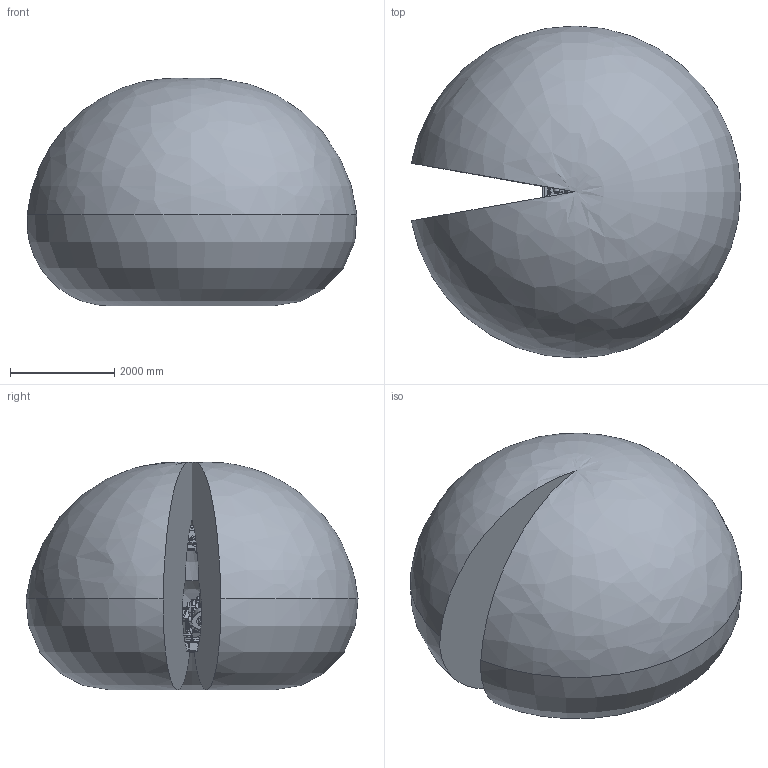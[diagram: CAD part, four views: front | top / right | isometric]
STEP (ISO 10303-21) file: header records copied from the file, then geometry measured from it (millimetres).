
FILE_DESCRIPTION(/* description */ (''),/* implementation_level */ '2;1');
FILE_NAME(/* name */ 'E:\组装完成的图纸\IRB 6700\IRB 6700-150-3.2\IRB 6700-150-3.2(带工作域).stp',/* time_stamp */ '2023-11-04T17:52:48+08:00',/* author */ ('Administrator'),/* organization */ (''),/* preprocessor_version */ 'ST-DEVELOPER v16.5',/* originating_system */ 'Autodesk Inventor 2017',/* authorisation */ '');
FILE_SCHEMA (('AUTOMOTIVE_DESIGN { 1 0 10303 214 3 1 1 }'));
Products named in the file (17): 部件15; IRB6700_320_Working_space; IRB6700-MH3_150-320_IRC5_rev00_LOGO1_CAD; IRB6700-MH3_150-320_IRC5_rev00_LOGO2_CAD; IRB6700-MH3_150-320_IRC5_rev00_LOGO3_CAD; IRB6700-MH3_150-320_IRC5_rev01_BASE_CAD; IRB6700-MH3_150-320_IRC5_rev01_LINK02m_CABLE; IRB6700-MH3_150-320_IRC5_rev02_LINK01m_CABLE; IRB6700-MH3_150-320_IRC5_rev02_LINK03m_CABLE; IRB6700-MH3_150-320_IRC5_rev02_LINK04_CAD; IRB6700-MH3_150-320_IRC5_rev02_LINK06_CAD; IRB6700-MH3_150-320_IRC5_rev03_LINK02_CAD; IRB6700-MH3_150-320_IRC5_rev03_ROD_CAD; IRB6700-MH3_150-320_IRC5_rev04_LINK05_CAD; IRB6700-MH3_150-320_IRC5_rev05_LINK03_CAD; IRB6700-MH3_150-320_IRC5_rev06_CYLINDER_CAD; IRB6700-MH3_150-320_IRC5_rev06_LINK01_CAD
Assembly tree (16 placements, depth 2):
  部件15
    IRB6700_320_Working_space
    IRB6700-MH3_150-320_IRC5_rev00_LOGO1_CAD
    IRB6700-MH3_150-320_IRC5_rev00_LOGO2_CAD
    IRB6700-MH3_150-320_IRC5_rev00_LOGO3_CAD
    IRB6700-MH3_150-320_IRC5_rev01_BASE_CAD
    IRB6700-MH3_150-320_IRC5_rev01_LINK02m_CABLE
    IRB6700-MH3_150-320_IRC5_rev02_LINK01m_CABLE
    IRB6700-MH3_150-320_IRC5_rev02_LINK03m_CABLE
    IRB6700-MH3_150-320_IRC5_rev02_LINK04_CAD
    IRB6700-MH3_150-320_IRC5_rev02_LINK06_CAD
    IRB6700-MH3_150-320_IRC5_rev03_LINK02_CAD
    IRB6700-MH3_150-320_IRC5_rev03_ROD_CAD
    IRB6700-MH3_150-320_IRC5_rev04_LINK05_CAD
    IRB6700-MH3_150-320_IRC5_rev05_LINK03_CAD
    IRB6700-MH3_150-320_IRC5_rev06_CYLINDER_CAD
    IRB6700-MH3_150-320_IRC5_rev06_LINK01_CAD
Bounding box: 6334.8 x 6382.12 x 4375.12 mm (x, y, z)
Volume: 91335654946.2 mm3; surface area: 149197114.1 mm2
Topology: 18 solids, 20 shells, 5337 faces, 14137 edges, 9155 vertices
Faces by surface type: plane 3248, cylinder 1090, cone 535, bspline 442, torus 17, sphere 5
Full cylindrical faces by diameter (mm): 5 x23, 6 x14, 6.5 x8, 6.6 x9, 6.8 x12, 7 x16, 7.1 x2, 7.5 x8, 8 x2, 8.3 x4, 8.5 x4, 8.6 x4, 8.8 x4, 9 x5, 10 x4, 10.2 x38, 11.05 x4, 12 x1, 12.5 x2, 13 x1, 14 x6, 14.385 x3, 16 x1, 16.3 x1, 17.5 x8, 17.583 x1, 17.6 x1, 17.608 x1, 18 x15, 18.2 x4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
Entity records: 230271 total; most frequent: CARTESIAN_POINT 102331, ORIENTED_EDGE 26606, DIRECTION 24895, EDGE_CURVE 13303, VERTEX_POINT 8935, AXIS2_PLACEMENT_3D 8454, LINE 7987, VECTOR 7987
